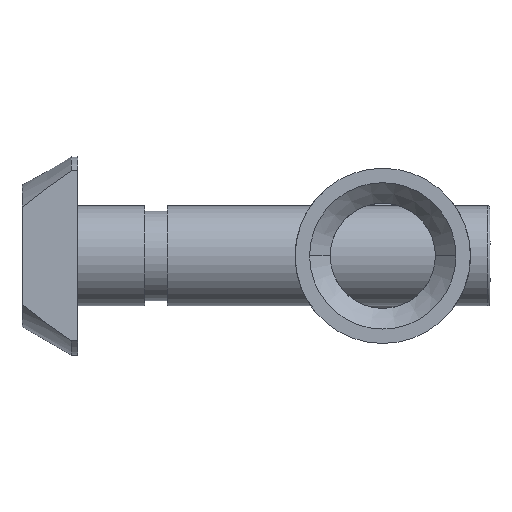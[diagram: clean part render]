
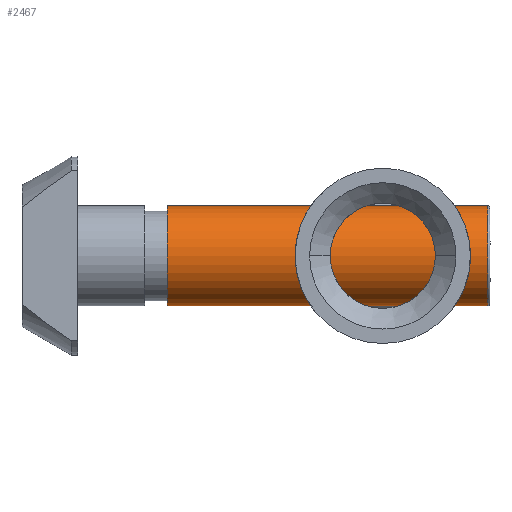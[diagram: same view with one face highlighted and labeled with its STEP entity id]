
A CAD part, left-side view. The second image highlights one B-rep face of the part: STEP entity #2467.
In plain terms, the highlighted cylindrical face has radius 4.85 mm (diameter 9.7 mm), a partial arc.
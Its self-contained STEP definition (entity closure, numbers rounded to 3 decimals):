
#91 = EDGE_CURVE ( 'NONE', #2691, #488, #1689, .T. ) ;
#155 = CARTESIAN_POINT ( 'NONE',  ( 31.3, 0., 0. ) ) ;
#332 = VECTOR ( 'NONE', #1491, 1000. ) ;
#488 = VERTEX_POINT ( 'NONE', #2552 ) ;
#714 = CARTESIAN_POINT ( 'NONE',  ( 31.1, 0., 0. ) ) ;
#913 = DIRECTION ( 'NONE',  ( 0., 0., 1. ) ) ;
#1022 = DIRECTION ( 'NONE',  ( 0., 0., 1. ) ) ;
#1030 = DIRECTION ( 'NONE',  ( 1., 0., 0. ) ) ;
#1035 = CARTESIAN_POINT ( 'NONE',  ( 0., 0., 0. ) ) ;
#1079 = CIRCLE ( 'NONE', #1443, 4.85 ) ;
#1118 = DIRECTION ( 'NONE',  ( -1., 0., 0. ) ) ;
#1170 = CARTESIAN_POINT ( 'NONE',  ( 31.3, 0., 4.85 ) ) ;
#1269 = FACE_OUTER_BOUND ( 'NONE', #1381, .T. ) ;
#1362 = VERTEX_POINT ( 'NONE', #2029 ) ;
#1363 = DIRECTION ( 'NONE',  ( -1., 0., 0. ) ) ;
#1381 = EDGE_LOOP ( 'NONE', ( #1763, #1882, #2105, #1405 ) ) ;
#1405 = ORIENTED_EDGE ( 'NONE', *, *, #2106, .T. ) ;
#1443 = AXIS2_PLACEMENT_3D ( 'NONE', #714, #2222, #913 ) ;
#1491 = DIRECTION ( 'NONE',  ( -1., 0., 0. ) ) ;
#1514 = CARTESIAN_POINT ( 'NONE',  ( 31.1, 0., 4.85 ) ) ;
#1673 = CIRCLE ( 'NONE', #1759, 4.85 ) ;
#1689 = LINE ( 'NONE', #1727, #332 ) ;
#1704 = LINE ( 'NONE', #1170, #1779 ) ;
#1727 = CARTESIAN_POINT ( 'NONE',  ( 31.3, 0., -4.85 ) ) ;
#1746 = EDGE_CURVE ( 'NONE', #2691, #2492, #1079, .T. ) ;
#1759 = AXIS2_PLACEMENT_3D ( 'NONE', #1035, #1030, #1022 ) ;
#1763 = ORIENTED_EDGE ( 'NONE', *, *, #91, .F. ) ;
#1779 = VECTOR ( 'NONE', #1118, 1000. ) ;
#1807 = DIRECTION ( 'NONE',  ( 0., 0., 1. ) ) ;
#1854 = AXIS2_PLACEMENT_3D ( 'NONE', #155, #1363, #1807 ) ;
#1882 = ORIENTED_EDGE ( 'NONE', *, *, #1746, .T. ) ;
#2029 = CARTESIAN_POINT ( 'NONE',  ( 0., 0., 4.85 ) ) ;
#2087 = EDGE_CURVE ( 'NONE', #2492, #1362, #1704, .T. ) ;
#2105 = ORIENTED_EDGE ( 'NONE', *, *, #2087, .T. ) ;
#2106 = EDGE_CURVE ( 'NONE', #1362, #488, #1673, .T. ) ;
#2222 = DIRECTION ( 'NONE',  ( -1., 0., 0. ) ) ;
#2381 = CARTESIAN_POINT ( 'NONE',  ( 31.1, 0., -4.85 ) ) ;
#2467 = ADVANCED_FACE ( 'NONE', ( #1269 ), #2585, .T. ) ;
#2492 = VERTEX_POINT ( 'NONE', #1514 ) ;
#2552 = CARTESIAN_POINT ( 'NONE',  ( 0., 0., -4.85 ) ) ;
#2585 = CYLINDRICAL_SURFACE ( 'NONE', #1854, 4.85 ) ;
#2691 = VERTEX_POINT ( 'NONE', #2381 ) ;
